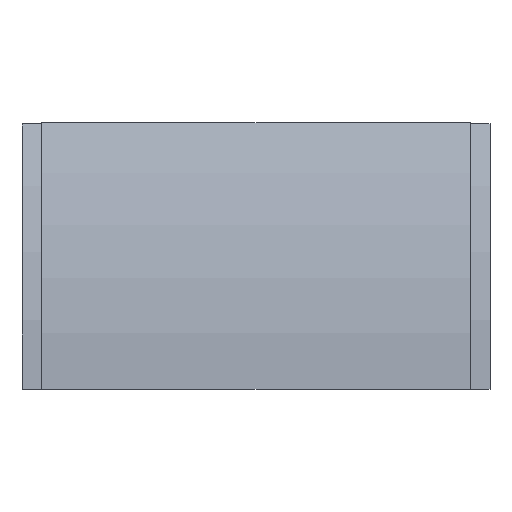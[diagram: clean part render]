
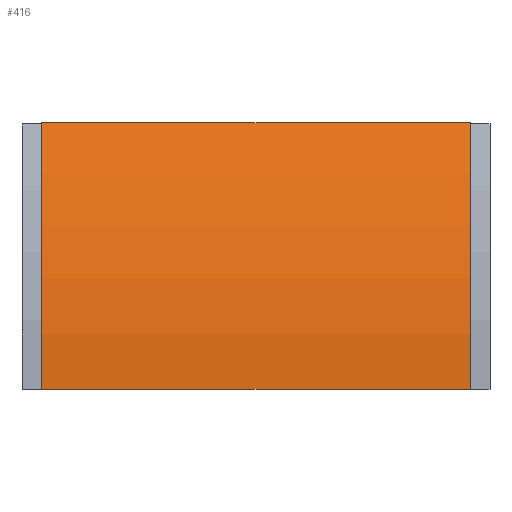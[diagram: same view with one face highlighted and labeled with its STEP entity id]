
A CAD part, front view. The second image highlights one B-rep face of the part: STEP entity #416.
In plain terms, the highlighted cylindrical face has radius 568 mm (diameter 1136 mm), a partial arc.
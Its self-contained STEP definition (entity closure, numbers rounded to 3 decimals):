
#159 = DIRECTION ( 'NONE',  ( 1., 0., 0. ) ) ;
#162 = CARTESIAN_POINT ( 'NONE',  ( -228.5, -68., 0. ) ) ;
#166 = DIRECTION ( 'NONE',  ( 0., 0., -1. ) ) ;
#167 = DIRECTION ( 'NONE',  ( 1., 0., 0. ) ) ;
#168 = CARTESIAN_POINT ( 'NONE',  ( 228.5, 500., 0. ) ) ;
#169 = CARTESIAN_POINT ( 'NONE',  ( -228.5, 8.098, 284. ) ) ;
#170 = DIRECTION ( 'NONE',  ( 1., 0., 0. ) ) ;
#172 = CARTESIAN_POINT ( 'NONE',  ( 228.5, 8.098, 284. ) ) ;
#175 = CARTESIAN_POINT ( 'NONE',  ( -228.5, 500., 0. ) ) ;
#188 = DIRECTION ( 'NONE',  ( 0., 0., -1. ) ) ;
#189 = DIRECTION ( 'NONE',  ( 1., 0., 0. ) ) ;
#191 = CARTESIAN_POINT ( 'NONE',  ( -228.5, 8.098, 284. ) ) ;
#204 = CARTESIAN_POINT ( 'NONE',  ( 0., 500., 0. ) ) ;
#297 = CARTESIAN_POINT ( 'NONE',  ( -228.5, -68., 0. ) ) ;
#300 = CARTESIAN_POINT ( 'NONE',  ( 228.5, -68., 0. ) ) ;
#359 = DIRECTION ( 'NONE',  ( 0., 0., -1. ) ) ;
#376 = DIRECTION ( 'NONE',  ( 1., 0., 0. ) ) ;
#416 = ADVANCED_FACE ( 'NONE', ( #530 ), #535, .T. ) ;
#466 = VERTEX_POINT ( 'NONE', #172 ) ;
#468 = VERTEX_POINT ( 'NONE', #191 ) ;
#473 = VERTEX_POINT ( 'NONE', #300 ) ;
#475 = VERTEX_POINT ( 'NONE', #297 ) ;
#530 = FACE_OUTER_BOUND ( 'NONE', #826, .T. ) ;
#535 = CYLINDRICAL_SURFACE ( 'NONE', #952, 568. ) ;
#600 = CIRCLE ( 'NONE', #981, 568. ) ;
#602 = LINE ( 'NONE', #169, #609 ) ;
#605 = CIRCLE ( 'NONE', #982, 568. ) ;
#608 = LINE ( 'NONE', #162, #611 ) ;
#609 = VECTOR ( 'NONE', #170, 1000. ) ;
#611 = VECTOR ( 'NONE', #159, 1000. ) ;
#774 = ORIENTED_EDGE ( 'NONE', *, *, #884, .T. ) ;
#775 = ORIENTED_EDGE ( 'NONE', *, *, #879, .T. ) ;
#776 = ORIENTED_EDGE ( 'NONE', *, *, #883, .F. ) ;
#777 = ORIENTED_EDGE ( 'NONE', *, *, #882, .F. ) ;
#826 = EDGE_LOOP ( 'NONE', ( #777, #776, #775, #774 ) ) ;
#879 = EDGE_CURVE ( 'NONE', #468, #475, #600, .T. ) ;
#882 = EDGE_CURVE ( 'NONE', #466, #473, #605, .T. ) ;
#883 = EDGE_CURVE ( 'NONE', #468, #466, #602, .T. ) ;
#884 = EDGE_CURVE ( 'NONE', #475, #473, #608, .T. ) ;
#952 = AXIS2_PLACEMENT_3D ( 'NONE', #204, #376, #359 ) ;
#981 = AXIS2_PLACEMENT_3D ( 'NONE', #175, #189, #188 ) ;
#982 = AXIS2_PLACEMENT_3D ( 'NONE', #168, #167, #166 ) ;
